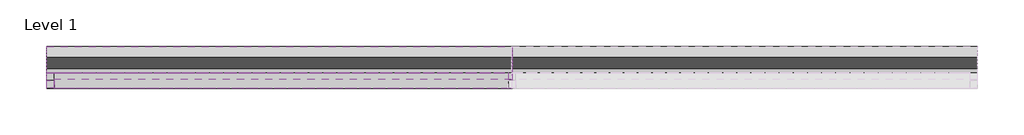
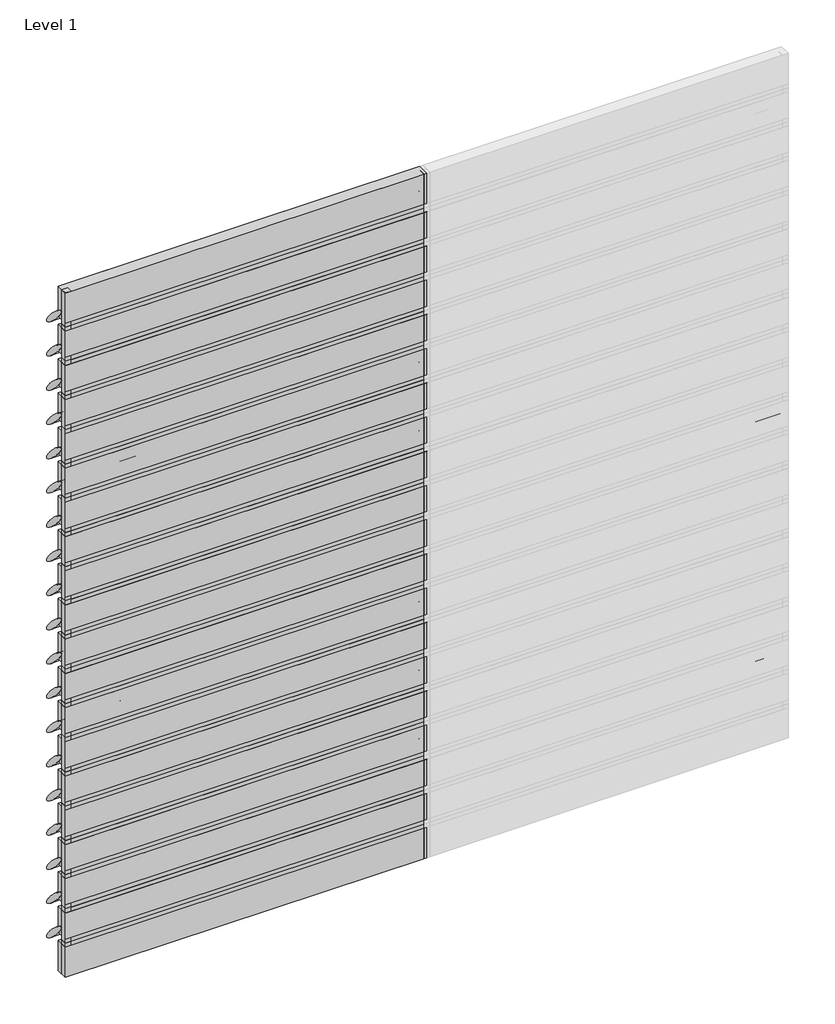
# One storey, part 1 of 2: 49 members, 40 plates.
"""IFC4 building model written with IfcOpenShell, lengths in millimetres."""

from ifc_helpers import new_model, si_unit, origin, place, context, project, spatial, transform, mapped, element, save
from components import rectangular_mullion_58689f85, rectangular_mullion_bcb65166, empty_system_panel_empty_bd2bff59, empty_system_panel_empty_0d5e6a9c, empty_system_panel_empty_080f249c

model = new_model("IFC4")

# Units and contexts
model_context = context("Model", 3, world=origin())
ifc_project = project(units=[si_unit("LENGTHUNIT", "METRE", prefix="MILLI")], contexts=[model_context])

# Site, building, storey
site = spatial("IfcSite", under=ifc_project)
building = spatial("IfcBuilding", under=site)
storey = spatial("IfcBuildingStorey", under=building, Name="Level 1", Elevation=0.0)

# Members
placement = place(None, origin())
rectangular_mullion_shape = rectangular_mullion_58689f85(model_context)
element("IfcMember", 1, ObjectType="Rectangular Mullion : RSen_21_CWM_blade - 300 ellips - 45°_gen_duco projects", at=placement, inside=storey, context=model_context, shape_type="MappedRepresentation", body=[
    mapped(rectangular_mullion_shape, transform((3000.0, 3000.0, 300.0), x_axis=(0.0, 0.0, 1.0), y_axis=(0.0, 1.0, 0.0), z_axis=(-1.0, 0.0, 0.0))),
])
element("IfcMember", 2, ObjectType="Rectangular Mullion : RSen_21_CWM_blade - 300 ellips - 45°_gen_duco projects", at=placement, inside=storey, context=model_context, shape_type="MappedRepresentation", body=[
    mapped(rectangular_mullion_shape, transform((3000.0, 3000.0, 600.0), x_axis=(0.0, 0.0, 1.0), y_axis=(0.0, 1.0, 0.0), z_axis=(-1.0, 0.0, 0.0))),
])
element("IfcMember", 3, ObjectType="Rectangular Mullion : RSen_21_CWM_blade - 300 ellips - 45°_gen_duco projects", at=placement, inside=storey, context=model_context, shape_type="MappedRepresentation", body=[
    mapped(rectangular_mullion_shape, transform((3000.0, 3000.0, 900.0), x_axis=(0.0, 0.0, 1.0), y_axis=(0.0, 1.0, 0.0), z_axis=(-1.0, 0.0, 0.0))),
])
element("IfcMember", 4, ObjectType="Rectangular Mullion : RSen_21_CWM_blade - 300 ellips - 45°_gen_duco projects", at=placement, inside=storey, context=model_context, shape_type="MappedRepresentation", body=[
    mapped(rectangular_mullion_shape, transform((3000.0, 3000.0, 1200.0), x_axis=(0.0, 0.0, 1.0), y_axis=(0.0, 1.0, 0.0), z_axis=(-1.0, 0.0, 0.0))),
])
element("IfcMember", 5, ObjectType="Rectangular Mullion : RSen_21_CWM_blade - 300 ellips - 45°_gen_duco projects", at=placement, inside=storey, context=model_context, shape_type="MappedRepresentation", body=[
    mapped(rectangular_mullion_shape, transform((3000.0, 3000.0, 1500.0), x_axis=(0.0, 0.0, 1.0), y_axis=(0.0, 1.0, 0.0), z_axis=(-1.0, 0.0, 0.0))),
])
element("IfcMember", 6, ObjectType="Rectangular Mullion : RSen_21_CWM_blade - 300 ellips - 45°_gen_duco projects", at=placement, inside=storey, context=model_context, shape_type="MappedRepresentation", body=[
    mapped(rectangular_mullion_shape, transform((3000.0, 3000.0, 1800.0), x_axis=(0.0, 0.0, 1.0), y_axis=(0.0, 1.0, 0.0), z_axis=(-1.0, 0.0, 0.0))),
])
element("IfcMember", 7, ObjectType="Rectangular Mullion : RSen_21_CWM_blade - 300 ellips - 45°_gen_duco projects", at=placement, inside=storey, context=model_context, shape_type="MappedRepresentation", body=[
    mapped(rectangular_mullion_shape, transform((3000.0, 3000.0, 2100.0), x_axis=(0.0, 0.0, 1.0), y_axis=(0.0, 1.0, 0.0), z_axis=(-1.0, 0.0, 0.0))),
])
element("IfcMember", 8, ObjectType="Rectangular Mullion : RSen_21_CWM_blade - 300 ellips - 45°_gen_duco projects", at=placement, inside=storey, context=model_context, shape_type="MappedRepresentation", body=[
    mapped(rectangular_mullion_shape, transform((3000.0, 3000.0, 2400.0), x_axis=(0.0, 0.0, 1.0), y_axis=(0.0, 1.0, 0.0), z_axis=(-1.0, 0.0, 0.0))),
])
element("IfcMember", 9, ObjectType="Rectangular Mullion : RSen_21_CWM_blade - 300 ellips - 45°_gen_duco projects", at=placement, inside=storey, context=model_context, shape_type="MappedRepresentation", body=[
    mapped(rectangular_mullion_shape, transform((3000.0, 3000.0, 2700.0), x_axis=(0.0, 0.0, 1.0), y_axis=(0.0, 1.0, 0.0), z_axis=(-1.0, 0.0, 0.0))),
])
element("IfcMember", 10, ObjectType="Rectangular Mullion : RSen_21_CWM_blade - 300 ellips - 45°_gen_duco projects", at=placement, inside=storey, context=model_context, shape_type="MappedRepresentation", body=[
    mapped(rectangular_mullion_shape, transform((3000.0, 3000.0, 3000.0), x_axis=(0.0, 0.0, 1.0), y_axis=(0.0, 1.0, 0.0), z_axis=(-1.0, 0.0, 0.0))),
])
element("IfcMember", 11, ObjectType="Rectangular Mullion : RSen_21_CWM_blade - 300 ellips - 45°_gen_duco projects", at=placement, inside=storey, context=model_context, shape_type="MappedRepresentation", body=[
    mapped(rectangular_mullion_shape, transform((0.0, 3000.0, 300.0), x_axis=(0.0, 0.0, 1.0), y_axis=(0.0, 1.0, 0.0), z_axis=(-1.0, 0.0, 0.0))),
])
element("IfcMember", 12, ObjectType="Rectangular Mullion : RSen_21_CWM_blade - 300 ellips - 45°_gen_duco projects", at=placement, inside=storey, context=model_context, shape_type="MappedRepresentation", body=[
    mapped(rectangular_mullion_shape, transform((0.0, 3000.0, 600.0), x_axis=(0.0, 0.0, 1.0), y_axis=(0.0, 1.0, 0.0), z_axis=(-1.0, 0.0, 0.0))),
])
element("IfcMember", 13, ObjectType="Rectangular Mullion : RSen_21_CWM_blade - 300 ellips - 45°_gen_duco projects", at=placement, inside=storey, context=model_context, shape_type="MappedRepresentation", body=[
    mapped(rectangular_mullion_shape, transform((0.0, 3000.0, 900.0), x_axis=(0.0, 0.0, 1.0), y_axis=(0.0, 1.0, 0.0), z_axis=(-1.0, 0.0, 0.0))),
])
element("IfcMember", 14, ObjectType="Rectangular Mullion : RSen_21_CWM_blade - 300 ellips - 45°_gen_duco projects", at=placement, inside=storey, context=model_context, shape_type="MappedRepresentation", body=[
    mapped(rectangular_mullion_shape, transform((0.0, 3000.0, 1200.0), x_axis=(0.0, 0.0, 1.0), y_axis=(0.0, 1.0, 0.0), z_axis=(-1.0, 0.0, 0.0))),
])
element("IfcMember", 15, ObjectType="Rectangular Mullion : RSen_21_CWM_blade - 300 ellips - 45°_gen_duco projects", at=placement, inside=storey, context=model_context, shape_type="MappedRepresentation", body=[
    mapped(rectangular_mullion_shape, transform((0.0, 3000.0, 1500.0), x_axis=(0.0, 0.0, 1.0), y_axis=(0.0, 1.0, 0.0), z_axis=(-1.0, 0.0, 0.0))),
])
element("IfcMember", 16, ObjectType="Rectangular Mullion : RSen_21_CWM_blade - 300 ellips - 45°_gen_duco projects", at=placement, inside=storey, context=model_context, shape_type="MappedRepresentation", body=[
    mapped(rectangular_mullion_shape, transform((0.0, 3000.0, 1800.0), x_axis=(0.0, 0.0, 1.0), y_axis=(0.0, 1.0, 0.0), z_axis=(-1.0, 0.0, 0.0))),
])
element("IfcMember", 17, ObjectType="Rectangular Mullion : RSen_21_CWM_blade - 300 ellips - 45°_gen_duco projects", at=placement, inside=storey, context=model_context, shape_type="MappedRepresentation", body=[
    mapped(rectangular_mullion_shape, transform((0.0, 3000.0, 2100.0), x_axis=(0.0, 0.0, 1.0), y_axis=(0.0, 1.0, 0.0), z_axis=(-1.0, 0.0, 0.0))),
])
element("IfcMember", 18, ObjectType="Rectangular Mullion : RSen_21_CWM_blade - 300 ellips - 45°_gen_duco projects", at=placement, inside=storey, context=model_context, shape_type="MappedRepresentation", body=[
    mapped(rectangular_mullion_shape, transform((0.0, 3000.0, 2400.0), x_axis=(0.0, 0.0, 1.0), y_axis=(0.0, 1.0, 0.0), z_axis=(-1.0, 0.0, 0.0))),
])
element("IfcMember", 19, ObjectType="Rectangular Mullion : RSen_21_CWM_blade - 300 ellips - 45°_gen_duco projects", at=placement, inside=storey, context=model_context, shape_type="MappedRepresentation", body=[
    mapped(rectangular_mullion_shape, transform((0.0, 3000.0, 2700.0), x_axis=(0.0, 0.0, 1.0), y_axis=(0.0, 1.0, 0.0), z_axis=(-1.0, 0.0, 0.0))),
])
element("IfcMember", 20, ObjectType="Rectangular Mullion : RSen_21_CWM_blade - 300 ellips - 45°_gen_duco projects", at=placement, inside=storey, context=model_context, shape_type="MappedRepresentation", body=[
    mapped(rectangular_mullion_shape, transform((0.0, 3000.0, 3000.0), x_axis=(0.0, 0.0, 1.0), y_axis=(0.0, 1.0, 0.0), z_axis=(-1.0, 0.0, 0.0))),
])
element("IfcMember", 21, ObjectType="Rectangular Mullion : RSen_21_CWM_blade - 300 ellips - 45°_gen_duco projects", at=placement, inside=storey, context=model_context, shape_type="MappedRepresentation", body=[
    mapped(rectangular_mullion_shape, transform((0.0, 3000.0, 3300.0), x_axis=(0.0, 0.0, 1.0), y_axis=(0.0, 1.0, 0.0), z_axis=(-1.0, 0.0, 0.0))),
])
element("IfcMember", 22, ObjectType="Rectangular Mullion : RSen_21_CWM_blade - 300 ellips - 45°_gen_duco projects", at=placement, inside=storey, context=model_context, shape_type="MappedRepresentation", body=[
    mapped(rectangular_mullion_shape, transform((0.0, 3000.0, 3600.0), x_axis=(0.0, 0.0, 1.0), y_axis=(0.0, 1.0, 0.0), z_axis=(-1.0, 0.0, 0.0))),
])
element("IfcMember", 23, ObjectType="Rectangular Mullion : RSen_21_CWM_blade - 300 ellips - 45°_gen_duco projects", at=placement, inside=storey, context=model_context, shape_type="MappedRepresentation", body=[
    mapped(rectangular_mullion_shape, transform((0.0, 3000.0, 3900.0), x_axis=(0.0, 0.0, 1.0), y_axis=(0.0, 1.0, 0.0), z_axis=(-1.0, 0.0, 0.0))),
])
element("IfcMember", 24, ObjectType="Rectangular Mullion : RSen_21_CWM_blade - 300 ellips - 45°_gen_duco projects", at=placement, inside=storey, context=model_context, shape_type="MappedRepresentation", body=[
    mapped(rectangular_mullion_shape, transform((0.0, 3000.0, 4200.0), x_axis=(0.0, 0.0, 1.0), y_axis=(0.0, 1.0, 0.0), z_axis=(-1.0, 0.0, 0.0))),
])
element("IfcMember", 25, ObjectType="Rectangular Mullion : RSen_21_CWM_blade - 300 ellips - 45°_gen_duco projects", at=placement, inside=storey, context=model_context, shape_type="MappedRepresentation", body=[
    mapped(rectangular_mullion_shape, transform((0.0, 3000.0, 4500.0), x_axis=(0.0, 0.0, 1.0), y_axis=(0.0, 1.0, 0.0), z_axis=(-1.0, 0.0, 0.0))),
])
element("IfcMember", 26, ObjectType="Rectangular Mullion : RSen_21_CWM_blade - 300 ellips - 45°_gen_duco projects", at=placement, inside=storey, context=model_context, shape_type="MappedRepresentation", body=[
    mapped(rectangular_mullion_shape, transform((0.0, 3000.0, 4800.0), x_axis=(0.0, 0.0, 1.0), y_axis=(0.0, 1.0, 0.0), z_axis=(-1.0, 0.0, 0.0))),
])
element("IfcMember", 27, ObjectType="Rectangular Mullion : RSen_21_CWM_blade - 300 ellips - 45°_gen_duco projects", at=placement, inside=storey, context=model_context, shape_type="MappedRepresentation", body=[
    mapped(rectangular_mullion_shape, transform((0.0, 3000.0, 5100.0), x_axis=(0.0, 0.0, 1.0), y_axis=(0.0, 1.0, 0.0), z_axis=(-1.0, 0.0, 0.0))),
])
element("IfcMember", 28, ObjectType="Rectangular Mullion : RSen_21_CWM_blade - 300 ellips - 45°_gen_duco projects", at=placement, inside=storey, context=model_context, shape_type="MappedRepresentation", body=[
    mapped(rectangular_mullion_shape, transform((0.0, 3000.0, 5400.0), x_axis=(0.0, 0.0, 1.0), y_axis=(0.0, 1.0, 0.0), z_axis=(-1.0, 0.0, 0.0))),
])
element("IfcMember", 29, ObjectType="Rectangular Mullion : RSen_21_CWM_blade - 300 ellips - 45°_gen_duco projects", at=placement, inside=storey, context=model_context, shape_type="MappedRepresentation", body=[
    mapped(rectangular_mullion_shape, transform((0.0, 3000.0, 5700.0), x_axis=(0.0, 0.0, 1.0), y_axis=(0.0, 1.0, 0.0), z_axis=(-1.0, 0.0, 0.0))),
])
rectangular_mullion_2_shape = rectangular_mullion_bcb65166(model_context)
element("IfcMember", 30, ObjectType="Rectangular Mullion : RSen_21_CWM_support profile 50x50 - left_gen_duco projects", at=placement, inside=storey, context=model_context, shape_type="MappedRepresentation", body=[
    mapped(rectangular_mullion_2_shape, transform((0.0, 3000.0, 0.0), x_axis=(-1.0, 0.0, 0.0), y_axis=(0.0, 1.0, 0.0), z_axis=(0.0, 0.0, -1.0))),
])
element("IfcMember", 31, ObjectType="Rectangular Mullion : RSen_21_CWM_support profile 50x50 - left_gen_duco projects", at=placement, inside=storey, context=model_context, shape_type="MappedRepresentation", body=[
    mapped(rectangular_mullion_2_shape, transform((0.0, 3000.0, 300.0), x_axis=(-1.0, 0.0, 0.0), y_axis=(0.0, 1.0, 0.0), z_axis=(0.0, 0.0, -1.0))),
])
element("IfcMember", 32, ObjectType="Rectangular Mullion : RSen_21_CWM_support profile 50x50 - left_gen_duco projects", at=placement, inside=storey, context=model_context, shape_type="MappedRepresentation", body=[
    mapped(rectangular_mullion_2_shape, transform((0.0, 3000.0, 600.0), x_axis=(-1.0, 0.0, 0.0), y_axis=(0.0, 1.0, 0.0), z_axis=(0.0, 0.0, -1.0))),
])
element("IfcMember", 33, ObjectType="Rectangular Mullion : RSen_21_CWM_support profile 50x50 - left_gen_duco projects", at=placement, inside=storey, context=model_context, shape_type="MappedRepresentation", body=[
    mapped(rectangular_mullion_2_shape, transform((0.0, 3000.0, 900.0), x_axis=(-1.0, 0.0, 0.0), y_axis=(0.0, 1.0, 0.0), z_axis=(0.0, 0.0, -1.0))),
])
element("IfcMember", 34, ObjectType="Rectangular Mullion : RSen_21_CWM_support profile 50x50 - left_gen_duco projects", at=placement, inside=storey, context=model_context, shape_type="MappedRepresentation", body=[
    mapped(rectangular_mullion_2_shape, transform((0.0, 3000.0, 1200.0), x_axis=(-1.0, 0.0, 0.0), y_axis=(0.0, 1.0, 0.0), z_axis=(0.0, 0.0, -1.0))),
])
element("IfcMember", 35, ObjectType="Rectangular Mullion : RSen_21_CWM_support profile 50x50 - left_gen_duco projects", at=placement, inside=storey, context=model_context, shape_type="MappedRepresentation", body=[
    mapped(rectangular_mullion_2_shape, transform((0.0, 3000.0, 1500.0), x_axis=(-1.0, 0.0, 0.0), y_axis=(0.0, 1.0, 0.0), z_axis=(0.0, 0.0, -1.0))),
])
element("IfcMember", 36, ObjectType="Rectangular Mullion : RSen_21_CWM_support profile 50x50 - left_gen_duco projects", at=placement, inside=storey, context=model_context, shape_type="MappedRepresentation", body=[
    mapped(rectangular_mullion_2_shape, transform((0.0, 3000.0, 1800.0), x_axis=(-1.0, 0.0, 0.0), y_axis=(0.0, 1.0, 0.0), z_axis=(0.0, 0.0, -1.0))),
])
element("IfcMember", 37, ObjectType="Rectangular Mullion : RSen_21_CWM_support profile 50x50 - left_gen_duco projects", at=placement, inside=storey, context=model_context, shape_type="MappedRepresentation", body=[
    mapped(rectangular_mullion_2_shape, transform((0.0, 3000.0, 2100.0), x_axis=(-1.0, 0.0, 0.0), y_axis=(0.0, 1.0, 0.0), z_axis=(0.0, 0.0, -1.0))),
])
element("IfcMember", 38, ObjectType="Rectangular Mullion : RSen_21_CWM_support profile 50x50 - left_gen_duco projects", at=placement, inside=storey, context=model_context, shape_type="MappedRepresentation", body=[
    mapped(rectangular_mullion_2_shape, transform((0.0, 3000.0, 2400.0), x_axis=(-1.0, 0.0, 0.0), y_axis=(0.0, 1.0, 0.0), z_axis=(0.0, 0.0, -1.0))),
])
element("IfcMember", 39, ObjectType="Rectangular Mullion : RSen_21_CWM_support profile 50x50 - left_gen_duco projects", at=placement, inside=storey, context=model_context, shape_type="MappedRepresentation", body=[
    mapped(rectangular_mullion_2_shape, transform((0.0, 3000.0, 2700.0), x_axis=(-1.0, 0.0, 0.0), y_axis=(0.0, 1.0, 0.0), z_axis=(0.0, 0.0, -1.0))),
])
element("IfcMember", 40, ObjectType="Rectangular Mullion : RSen_21_CWM_support profile 50x50 - left_gen_duco projects", at=placement, inside=storey, context=model_context, shape_type="MappedRepresentation", body=[
    mapped(rectangular_mullion_2_shape, transform((0.0, 3000.0, 3000.0), x_axis=(-1.0, 0.0, 0.0), y_axis=(0.0, 1.0, 0.0), z_axis=(0.0, 0.0, -1.0))),
])
element("IfcMember", 41, ObjectType="Rectangular Mullion : RSen_21_CWM_support profile 50x50 - left_gen_duco projects", at=placement, inside=storey, context=model_context, shape_type="MappedRepresentation", body=[
    mapped(rectangular_mullion_2_shape, transform((0.0, 3000.0, 3300.0), x_axis=(-1.0, 0.0, 0.0), y_axis=(0.0, 1.0, 0.0), z_axis=(0.0, 0.0, -1.0))),
])
element("IfcMember", 42, ObjectType="Rectangular Mullion : RSen_21_CWM_support profile 50x50 - left_gen_duco projects", at=placement, inside=storey, context=model_context, shape_type="MappedRepresentation", body=[
    mapped(rectangular_mullion_2_shape, transform((0.0, 3000.0, 3600.0), x_axis=(-1.0, 0.0, 0.0), y_axis=(0.0, 1.0, 0.0), z_axis=(0.0, 0.0, -1.0))),
])
element("IfcMember", 43, ObjectType="Rectangular Mullion : RSen_21_CWM_support profile 50x50 - left_gen_duco projects", at=placement, inside=storey, context=model_context, shape_type="MappedRepresentation", body=[
    mapped(rectangular_mullion_2_shape, transform((0.0, 3000.0, 3900.0), x_axis=(-1.0, 0.0, 0.0), y_axis=(0.0, 1.0, 0.0), z_axis=(0.0, 0.0, -1.0))),
])
element("IfcMember", 44, ObjectType="Rectangular Mullion : RSen_21_CWM_support profile 50x50 - left_gen_duco projects", at=placement, inside=storey, context=model_context, shape_type="MappedRepresentation", body=[
    mapped(rectangular_mullion_2_shape, transform((0.0, 3000.0, 4200.0), x_axis=(-1.0, 0.0, 0.0), y_axis=(0.0, 1.0, 0.0), z_axis=(0.0, 0.0, -1.0))),
])
element("IfcMember", 45, ObjectType="Rectangular Mullion : RSen_21_CWM_support profile 50x50 - left_gen_duco projects", at=placement, inside=storey, context=model_context, shape_type="MappedRepresentation", body=[
    mapped(rectangular_mullion_2_shape, transform((0.0, 3000.0, 4500.0), x_axis=(-1.0, 0.0, 0.0), y_axis=(0.0, 1.0, 0.0), z_axis=(0.0, 0.0, -1.0))),
])
element("IfcMember", 46, ObjectType="Rectangular Mullion : RSen_21_CWM_support profile 50x50 - left_gen_duco projects", at=placement, inside=storey, context=model_context, shape_type="MappedRepresentation", body=[
    mapped(rectangular_mullion_2_shape, transform((0.0, 3000.0, 4800.0), x_axis=(-1.0, 0.0, 0.0), y_axis=(0.0, 1.0, 0.0), z_axis=(0.0, 0.0, -1.0))),
])
element("IfcMember", 47, ObjectType="Rectangular Mullion : RSen_21_CWM_support profile 50x50 - left_gen_duco projects", at=placement, inside=storey, context=model_context, shape_type="MappedRepresentation", body=[
    mapped(rectangular_mullion_2_shape, transform((0.0, 3000.0, 5100.0), x_axis=(-1.0, 0.0, 0.0), y_axis=(0.0, 1.0, 0.0), z_axis=(0.0, 0.0, -1.0))),
])
element("IfcMember", 48, ObjectType="Rectangular Mullion : RSen_21_CWM_support profile 50x50 - left_gen_duco projects", at=placement, inside=storey, context=model_context, shape_type="MappedRepresentation", body=[
    mapped(rectangular_mullion_2_shape, transform((0.0, 3000.0, 5400.0), x_axis=(-1.0, 0.0, 0.0), y_axis=(0.0, 1.0, 0.0), z_axis=(0.0, 0.0, -1.0))),
])
element("IfcMember", 49, ObjectType="Rectangular Mullion : RSen_21_CWM_support profile 50x50 - left_gen_duco projects", at=placement, inside=storey, context=model_context, shape_type="MappedRepresentation", body=[
    mapped(rectangular_mullion_2_shape, transform((0.0, 3000.0, 5700.0), x_axis=(-1.0, 0.0, 0.0), y_axis=(0.0, 1.0, 0.0), z_axis=(0.0, 0.0, -1.0))),
])

# Plates
empty_system_panel_empty_shape = empty_system_panel_empty_bd2bff59(model_context)
element("IfcPlate", 50, ObjectType="Empty System Panel : Empty", at=placement, inside=storey, context=model_context, shape_type="MappedRepresentation", body=[
    mapped(empty_system_panel_empty_shape, transform((1500.0, 3000.0, 0.0), x_axis=(-1.0, 0.0, 0.0), y_axis=(0.0, -1.0, 0.0), z_axis=(0.0, 0.0, 1.0))),
])
element("IfcPlate", 51, ObjectType="Empty System Panel : Empty", at=placement, inside=storey, context=model_context, shape_type="MappedRepresentation", body=[
    mapped(empty_system_panel_empty_shape, transform((1500.0, 3000.0, 5735.3553391), x_axis=(-1.0, 0.0, 0.0), y_axis=(0.0, -1.0, 0.0), z_axis=(0.0, 0.0, 1.0))),
])
empty_system_panel_empty_2_shape = empty_system_panel_empty_0d5e6a9c(model_context)
element("IfcPlate", 52, ObjectType="Empty System Panel : Empty", at=placement, inside=storey, context=model_context, shape_type="MappedRepresentation", body=[
    mapped(empty_system_panel_empty_2_shape, transform((1500.0, 3000.0, 335.3553391), x_axis=(-1.0, 0.0, 0.0), y_axis=(0.0, -1.0, 0.0), z_axis=(0.0, 0.0, 1.0))),
])
element("IfcPlate", 53, ObjectType="Empty System Panel : Empty", at=placement, inside=storey, context=model_context, shape_type="MappedRepresentation", body=[
    mapped(empty_system_panel_empty_2_shape, transform((1500.0, 3000.0, 635.3553391), x_axis=(-1.0, 0.0, 0.0), y_axis=(0.0, -1.0, 0.0), z_axis=(0.0, 0.0, 1.0))),
])
element("IfcPlate", 54, ObjectType="Empty System Panel : Empty", at=placement, inside=storey, context=model_context, shape_type="MappedRepresentation", body=[
    mapped(empty_system_panel_empty_2_shape, transform((1500.0, 3000.0, 935.3553391), x_axis=(-1.0, 0.0, 0.0), y_axis=(0.0, -1.0, 0.0), z_axis=(0.0, 0.0, 1.0))),
])
element("IfcPlate", 55, ObjectType="Empty System Panel : Empty", at=placement, inside=storey, context=model_context, shape_type="MappedRepresentation", body=[
    mapped(empty_system_panel_empty_2_shape, transform((1500.0, 3000.0, 1235.3553391), x_axis=(-1.0, 0.0, 0.0), y_axis=(0.0, -1.0, 0.0), z_axis=(0.0, 0.0, 1.0))),
])
element("IfcPlate", 56, ObjectType="Empty System Panel : Empty", at=placement, inside=storey, context=model_context, shape_type="MappedRepresentation", body=[
    mapped(empty_system_panel_empty_2_shape, transform((1500.0, 3000.0, 1535.3553391), x_axis=(-1.0, 0.0, 0.0), y_axis=(0.0, -1.0, 0.0), z_axis=(0.0, 0.0, 1.0))),
])
element("IfcPlate", 57, ObjectType="Empty System Panel : Empty", at=placement, inside=storey, context=model_context, shape_type="MappedRepresentation", body=[
    mapped(empty_system_panel_empty_2_shape, transform((1500.0, 3000.0, 1835.3553391), x_axis=(-1.0, 0.0, 0.0), y_axis=(0.0, -1.0, 0.0), z_axis=(0.0, 0.0, 1.0))),
])
element("IfcPlate", 58, ObjectType="Empty System Panel : Empty", at=placement, inside=storey, context=model_context, shape_type="MappedRepresentation", body=[
    mapped(empty_system_panel_empty_2_shape, transform((1500.0, 3000.0, 2135.3553391), x_axis=(-1.0, 0.0, 0.0), y_axis=(0.0, -1.0, 0.0), z_axis=(0.0, 0.0, 1.0))),
])
element("IfcPlate", 59, ObjectType="Empty System Panel : Empty", at=placement, inside=storey, context=model_context, shape_type="MappedRepresentation", body=[
    mapped(empty_system_panel_empty_2_shape, transform((1500.0, 3000.0, 2435.3553391), x_axis=(-1.0, 0.0, 0.0), y_axis=(0.0, -1.0, 0.0), z_axis=(0.0, 0.0, 1.0))),
])
element("IfcPlate", 60, ObjectType="Empty System Panel : Empty", at=placement, inside=storey, context=model_context, shape_type="MappedRepresentation", body=[
    mapped(empty_system_panel_empty_2_shape, transform((1500.0, 3000.0, 2735.3553391), x_axis=(-1.0, 0.0, 0.0), y_axis=(0.0, -1.0, 0.0), z_axis=(0.0, 0.0, 1.0))),
])
element("IfcPlate", 61, ObjectType="Empty System Panel : Empty", at=placement, inside=storey, context=model_context, shape_type="MappedRepresentation", body=[
    mapped(empty_system_panel_empty_2_shape, transform((1500.0, 3000.0, 3035.3553391), x_axis=(-1.0, 0.0, 0.0), y_axis=(0.0, -1.0, 0.0), z_axis=(0.0, 0.0, 1.0))),
])
element("IfcPlate", 62, ObjectType="Empty System Panel : Empty", at=placement, inside=storey, context=model_context, shape_type="MappedRepresentation", body=[
    mapped(empty_system_panel_empty_2_shape, transform((1500.0, 3000.0, 3335.3553391), x_axis=(-1.0, 0.0, 0.0), y_axis=(0.0, -1.0, 0.0), z_axis=(0.0, 0.0, 1.0))),
])
element("IfcPlate", 63, ObjectType="Empty System Panel : Empty", at=placement, inside=storey, context=model_context, shape_type="MappedRepresentation", body=[
    mapped(empty_system_panel_empty_2_shape, transform((1500.0, 3000.0, 3635.3553391), x_axis=(-1.0, 0.0, 0.0), y_axis=(0.0, -1.0, 0.0), z_axis=(0.0, 0.0, 1.0))),
])
element("IfcPlate", 64, ObjectType="Empty System Panel : Empty", at=placement, inside=storey, context=model_context, shape_type="MappedRepresentation", body=[
    mapped(empty_system_panel_empty_2_shape, transform((1500.0, 3000.0, 3935.3553391), x_axis=(-1.0, 0.0, 0.0), y_axis=(0.0, -1.0, 0.0), z_axis=(0.0, 0.0, 1.0))),
])
element("IfcPlate", 65, ObjectType="Empty System Panel : Empty", at=placement, inside=storey, context=model_context, shape_type="MappedRepresentation", body=[
    mapped(empty_system_panel_empty_2_shape, transform((1500.0, 3000.0, 4235.3553391), x_axis=(-1.0, 0.0, 0.0), y_axis=(0.0, -1.0, 0.0), z_axis=(0.0, 0.0, 1.0))),
])
element("IfcPlate", 66, ObjectType="Empty System Panel : Empty", at=placement, inside=storey, context=model_context, shape_type="MappedRepresentation", body=[
    mapped(empty_system_panel_empty_2_shape, transform((1500.0, 3000.0, 4535.3553391), x_axis=(-1.0, 0.0, 0.0), y_axis=(0.0, -1.0, 0.0), z_axis=(0.0, 0.0, 1.0))),
])
element("IfcPlate", 67, ObjectType="Empty System Panel : Empty", at=placement, inside=storey, context=model_context, shape_type="MappedRepresentation", body=[
    mapped(empty_system_panel_empty_2_shape, transform((1500.0, 3000.0, 4835.3553391), x_axis=(-1.0, 0.0, 0.0), y_axis=(0.0, -1.0, 0.0), z_axis=(0.0, 0.0, 1.0))),
])
element("IfcPlate", 68, ObjectType="Empty System Panel : Empty", at=placement, inside=storey, context=model_context, shape_type="MappedRepresentation", body=[
    mapped(empty_system_panel_empty_2_shape, transform((1500.0, 3000.0, 5135.3553391), x_axis=(-1.0, 0.0, 0.0), y_axis=(0.0, -1.0, 0.0), z_axis=(0.0, 0.0, 1.0))),
])
element("IfcPlate", 69, ObjectType="Empty System Panel : Empty", at=placement, inside=storey, context=model_context, shape_type="MappedRepresentation", body=[
    mapped(empty_system_panel_empty_2_shape, transform((1500.0, 3000.0, 5435.3553391), x_axis=(-1.0, 0.0, 0.0), y_axis=(0.0, -1.0, 0.0), z_axis=(0.0, 0.0, 1.0))),
])
empty_system_panel_empty_3_shape = empty_system_panel_empty_080f249c(model_context)
element("IfcPlate", 70, ObjectType="Empty System Panel : Empty", at=placement, inside=storey, context=model_context, shape_type="MappedRepresentation", body=[
    mapped(empty_system_panel_empty_3_shape, transform((1512.5, 3000.0, 0.0), x_axis=(-1.0, 0.0, 0.0), y_axis=(0.0, -1.0, 0.0), z_axis=(0.0, 0.0, 1.0))),
])
element("IfcPlate", 71, ObjectType="Empty System Panel : Empty", at=placement, inside=storey, context=model_context, shape_type="MappedRepresentation", body=[
    mapped(empty_system_panel_empty_3_shape, transform((1512.5, 3000.0, 300.0), x_axis=(-1.0, 0.0, 0.0), y_axis=(0.0, -1.0, 0.0), z_axis=(0.0, 0.0, 1.0))),
])
element("IfcPlate", 72, ObjectType="Empty System Panel : Empty", at=placement, inside=storey, context=model_context, shape_type="MappedRepresentation", body=[
    mapped(empty_system_panel_empty_3_shape, transform((1512.5, 3000.0, 600.0), x_axis=(-1.0, 0.0, 0.0), y_axis=(0.0, -1.0, 0.0), z_axis=(0.0, 0.0, 1.0))),
])
element("IfcPlate", 73, ObjectType="Empty System Panel : Empty", at=placement, inside=storey, context=model_context, shape_type="MappedRepresentation", body=[
    mapped(empty_system_panel_empty_3_shape, transform((1512.5, 3000.0, 900.0), x_axis=(-1.0, 0.0, 0.0), y_axis=(0.0, -1.0, 0.0), z_axis=(0.0, 0.0, 1.0))),
])
element("IfcPlate", 74, ObjectType="Empty System Panel : Empty", at=placement, inside=storey, context=model_context, shape_type="MappedRepresentation", body=[
    mapped(empty_system_panel_empty_3_shape, transform((1512.5, 3000.0, 1200.0), x_axis=(-1.0, 0.0, 0.0), y_axis=(0.0, -1.0, 0.0), z_axis=(0.0, 0.0, 1.0))),
])
element("IfcPlate", 75, ObjectType="Empty System Panel : Empty", at=placement, inside=storey, context=model_context, shape_type="MappedRepresentation", body=[
    mapped(empty_system_panel_empty_3_shape, transform((1512.5, 3000.0, 1500.0), x_axis=(-1.0, 0.0, 0.0), y_axis=(0.0, -1.0, 0.0), z_axis=(0.0, 0.0, 1.0))),
])
element("IfcPlate", 76, ObjectType="Empty System Panel : Empty", at=placement, inside=storey, context=model_context, shape_type="MappedRepresentation", body=[
    mapped(empty_system_panel_empty_3_shape, transform((1512.5, 3000.0, 1800.0), x_axis=(-1.0, 0.0, 0.0), y_axis=(0.0, -1.0, 0.0), z_axis=(0.0, 0.0, 1.0))),
])
element("IfcPlate", 77, ObjectType="Empty System Panel : Empty", at=placement, inside=storey, context=model_context, shape_type="MappedRepresentation", body=[
    mapped(empty_system_panel_empty_3_shape, transform((1512.5, 3000.0, 2100.0), x_axis=(-1.0, 0.0, 0.0), y_axis=(0.0, -1.0, 0.0), z_axis=(0.0, 0.0, 1.0))),
])
element("IfcPlate", 78, ObjectType="Empty System Panel : Empty", at=placement, inside=storey, context=model_context, shape_type="MappedRepresentation", body=[
    mapped(empty_system_panel_empty_3_shape, transform((1512.5, 3000.0, 2400.0), x_axis=(-1.0, 0.0, 0.0), y_axis=(0.0, -1.0, 0.0), z_axis=(0.0, 0.0, 1.0))),
])
element("IfcPlate", 79, ObjectType="Empty System Panel : Empty", at=placement, inside=storey, context=model_context, shape_type="MappedRepresentation", body=[
    mapped(empty_system_panel_empty_3_shape, transform((1512.5, 3000.0, 2700.0), x_axis=(-1.0, 0.0, 0.0), y_axis=(0.0, -1.0, 0.0), z_axis=(0.0, 0.0, 1.0))),
])
element("IfcPlate", 80, ObjectType="Empty System Panel : Empty", at=placement, inside=storey, context=model_context, shape_type="MappedRepresentation", body=[
    mapped(empty_system_panel_empty_3_shape, transform((1512.5, 3000.0, 3000.0), x_axis=(-1.0, 0.0, 0.0), y_axis=(0.0, -1.0, 0.0), z_axis=(0.0, 0.0, 1.0))),
])
element("IfcPlate", 81, ObjectType="Empty System Panel : Empty", at=placement, inside=storey, context=model_context, shape_type="MappedRepresentation", body=[
    mapped(empty_system_panel_empty_3_shape, transform((1512.5, 3000.0, 3300.0), x_axis=(-1.0, 0.0, 0.0), y_axis=(0.0, -1.0, 0.0), z_axis=(0.0, 0.0, 1.0))),
])
element("IfcPlate", 82, ObjectType="Empty System Panel : Empty", at=placement, inside=storey, context=model_context, shape_type="MappedRepresentation", body=[
    mapped(empty_system_panel_empty_3_shape, transform((1512.5, 3000.0, 3600.0), x_axis=(-1.0, 0.0, 0.0), y_axis=(0.0, -1.0, 0.0), z_axis=(0.0, 0.0, 1.0))),
])
element("IfcPlate", 83, ObjectType="Empty System Panel : Empty", at=placement, inside=storey, context=model_context, shape_type="MappedRepresentation", body=[
    mapped(empty_system_panel_empty_3_shape, transform((1512.5, 3000.0, 3900.0), x_axis=(-1.0, 0.0, 0.0), y_axis=(0.0, -1.0, 0.0), z_axis=(0.0, 0.0, 1.0))),
])
element("IfcPlate", 84, ObjectType="Empty System Panel : Empty", at=placement, inside=storey, context=model_context, shape_type="MappedRepresentation", body=[
    mapped(empty_system_panel_empty_3_shape, transform((1512.5, 3000.0, 4200.0), x_axis=(-1.0, 0.0, 0.0), y_axis=(0.0, -1.0, 0.0), z_axis=(0.0, 0.0, 1.0))),
])
element("IfcPlate", 85, ObjectType="Empty System Panel : Empty", at=placement, inside=storey, context=model_context, shape_type="MappedRepresentation", body=[
    mapped(empty_system_panel_empty_3_shape, transform((1512.5, 3000.0, 4500.0), x_axis=(-1.0, 0.0, 0.0), y_axis=(0.0, -1.0, 0.0), z_axis=(0.0, 0.0, 1.0))),
])
element("IfcPlate", 86, ObjectType="Empty System Panel : Empty", at=placement, inside=storey, context=model_context, shape_type="MappedRepresentation", body=[
    mapped(empty_system_panel_empty_3_shape, transform((1512.5, 3000.0, 4800.0), x_axis=(-1.0, 0.0, 0.0), y_axis=(0.0, -1.0, 0.0), z_axis=(0.0, 0.0, 1.0))),
])
element("IfcPlate", 87, ObjectType="Empty System Panel : Empty", at=placement, inside=storey, context=model_context, shape_type="MappedRepresentation", body=[
    mapped(empty_system_panel_empty_3_shape, transform((1512.5, 3000.0, 5100.0), x_axis=(-1.0, 0.0, 0.0), y_axis=(0.0, -1.0, 0.0), z_axis=(0.0, 0.0, 1.0))),
])
element("IfcPlate", 88, ObjectType="Empty System Panel : Empty", at=placement, inside=storey, context=model_context, shape_type="MappedRepresentation", body=[
    mapped(empty_system_panel_empty_3_shape, transform((1512.5, 3000.0, 5400.0), x_axis=(-1.0, 0.0, 0.0), y_axis=(0.0, -1.0, 0.0), z_axis=(0.0, 0.0, 1.0))),
])
element("IfcPlate", 89, ObjectType="Empty System Panel : Empty", at=placement, inside=storey, context=model_context, shape_type="MappedRepresentation", body=[
    mapped(empty_system_panel_empty_3_shape, transform((1512.5, 3000.0, 5700.0), x_axis=(-1.0, 0.0, 0.0), y_axis=(0.0, -1.0, 0.0), z_axis=(0.0, 0.0, 1.0))),
])

save(model, "model.ifc")
